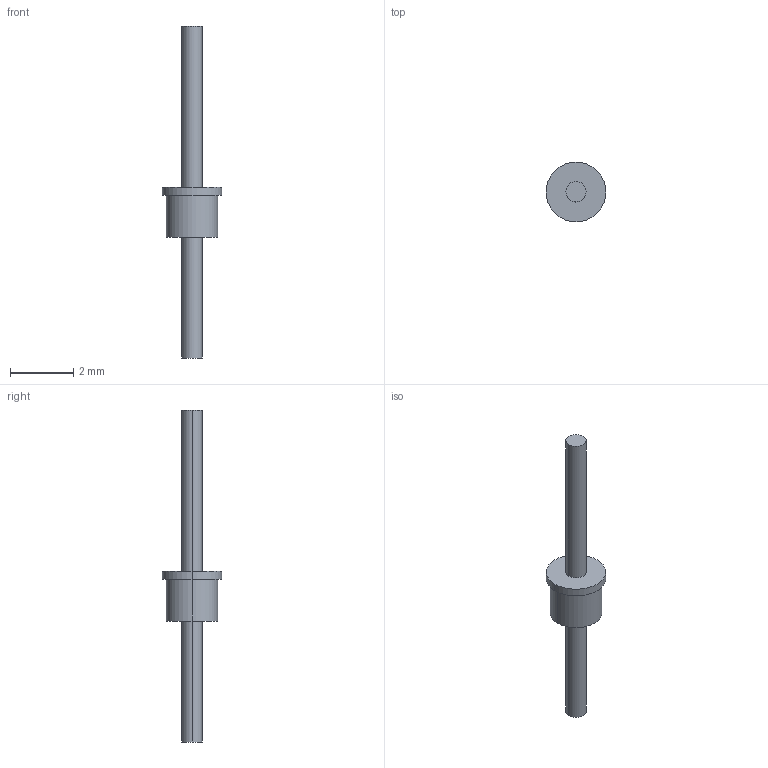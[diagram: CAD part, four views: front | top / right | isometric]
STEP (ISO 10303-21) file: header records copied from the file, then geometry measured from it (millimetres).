
FILE_DESCRIPTION (( 'STEP AP214' ), '1' );
FILE_NAME ('HILNA-LS-C026.STEP', '2025-03-31T13:18:44', ( '' ), ( '' ), 'SwSTEP 2.0', 'SolidWorks 2021', '' );
FILE_SCHEMA (( 'AUTOMOTIVE_DESIGN' ));
Length unit declared in the file: inch
Products named in the file (1): HILNA-LS-C026
Bounding box: 1.88 x 1.88 x 10.46 mm (x, y, z)
Volume: 6.3 mm3; surface area: 31.5 mm2
Topology: 1 solids, 1 shells, 13 faces, 24 edges, 16 vertices
Faces by surface type: cylinder 8, plane 5
Entity records: 374 total; most frequent: DIRECTION 68, CARTESIAN_POINT 54, ORIENTED_EDGE 48, AXIS2_PLACEMENT_3D 30, EDGE_CURVE 24, VERTEX_POINT 16, CIRCLE 16, EDGE_LOOP 16
